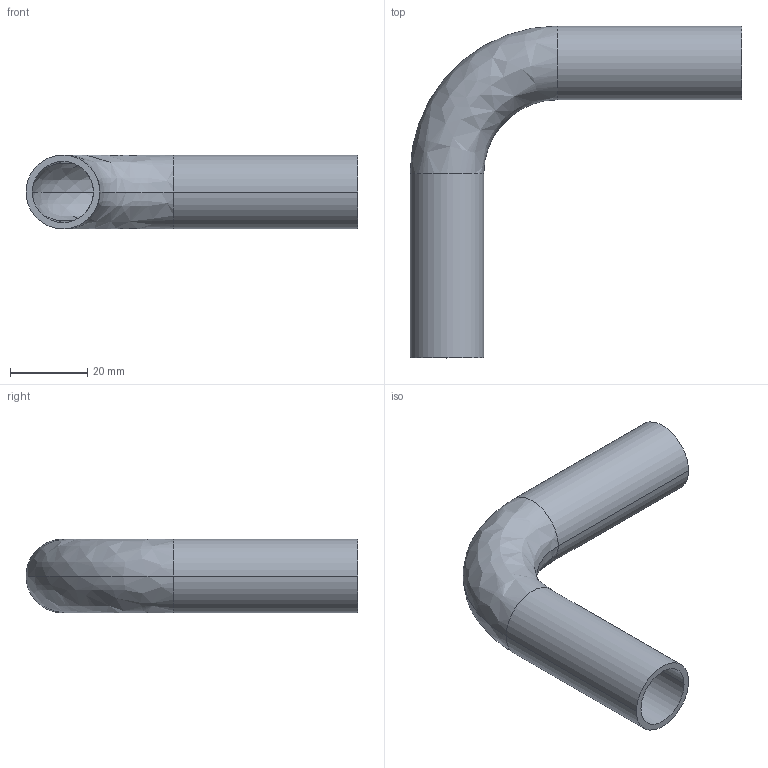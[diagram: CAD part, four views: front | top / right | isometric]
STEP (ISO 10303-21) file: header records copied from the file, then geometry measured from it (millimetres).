
FILE_DESCRIPTION (( 'STEP AP214' ), '1' );
FILE_NAME ('TE2S6L.75-...STEP', '2016-05-22T09:46:05', ( 'eran' ), ( '' ), 'SwSTEP 2.0', 'SolidWorks 2016', '' );
FILE_SCHEMA (( 'AUTOMOTIVE_DESIGN' ));
Length unit declared in the file: millimetre
Products named in the file (1): TE2S6L.75-..
Bounding box: 85.72 x 85.72 x 19.05 mm (x, y, z)
Volume: 12638.6 mm3; surface area: 15499.9 mm2
Topology: 1 solids, 1 shells, 14 faces, 28 edges, 16 vertices
Faces by surface type: cylinder 8, bspline 4, plane 2
Entity records: 450 total; most frequent: CARTESIAN_POINT 119, DIRECTION 70, ORIENTED_EDGE 56, AXIS2_PLACEMENT_3D 31, EDGE_CURVE 28, CIRCLE 20, EDGE_LOOP 16, VERTEX_POINT 16
